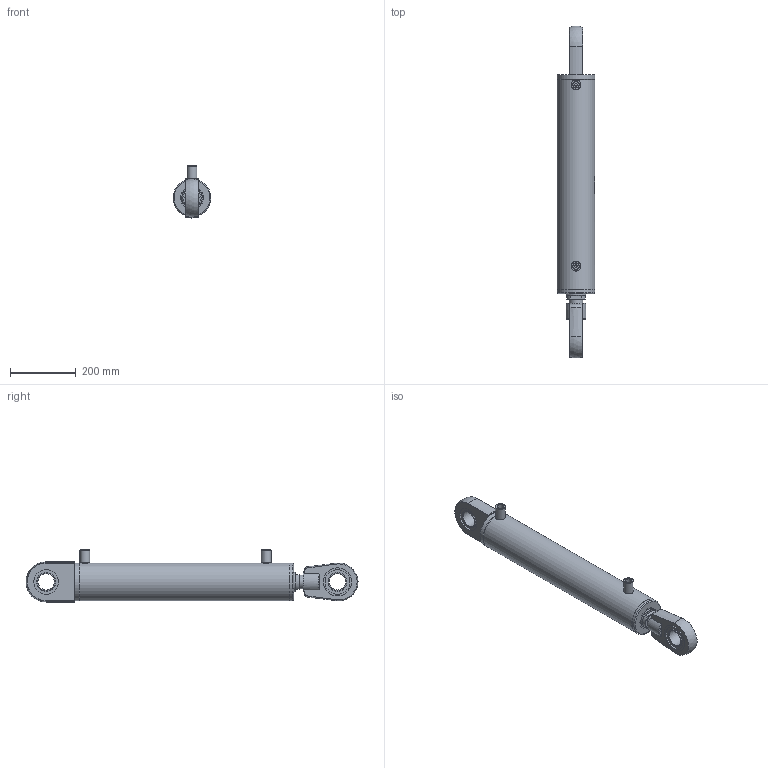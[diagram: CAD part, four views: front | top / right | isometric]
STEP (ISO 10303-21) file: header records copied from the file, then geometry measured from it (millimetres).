
FILE_DESCRIPTION(/* description */ (''),/* implementation_level */ '2;1');
FILE_NAME(/* name */ 'HC_A_100_60_500_AMB_WEB.step',/* time_stamp */ '2023-07-31T14:51:43+03:00',/* author */ (''),/* organization */ (''),/* preprocessor_version */ 'ST-DEVELOPER v20',/* originating_system */ 'Autodesk Translation Framework v12.9.0.99',/* authorisation */ '');
FILE_SCHEMA (('AUTOMOTIVE_DESIGN { 1 0 10303 214 3 1 1 }'));
Length unit declared in the file: millimetre
Products named in the file (20): TRACE_PARTS_MONTAJ; TAK_100_115; TAK_100_115_1; Ø100 x Ø115 _H_BORU; 100X115_H_BORU; Ø60_K_MİL; 60_K_MİL; TDK_100_060; TDK_80_45; K33-060_3; K3-060_3; K06-60X70X5_5X7 (K06_060_5); KO-90X5; Bileşen1; RMK_50; RMV_50; dgihl_50_do; Manşon_1_2; Manşon_1_2_1; MANŞON_1/2
Assembly tree (20 placements, depth 4):
  TRACE_PARTS_MONTAJ
    TAK_100_115
      TAK_100_115_1
    Ø100 x Ø115 _H_BORU
      100X115_H_BORU
    Ø60_K_MİL
      60_K_MİL
    TDK_100_060
      TDK_80_45
      K33-060_3
        K3-060_3
      K06-60X70X5_5X7 (K06_060_5)
      KO-90X5
        Bileşen1
    RMK_50
    RMV_50
      dgihl_50_do
    Manşon_1_2
      MANŞON_1/2
    Manşon_1_2_1
      MANŞON_1/2
Bounding box: 115 x 1013.16 x 159 mm (x, y, z)
Volume: 3943583.5 mm3; surface area: 728861.3 mm2
Topology: 11 solids, 11 shells, 768 faces, 2004 edges, 1325 vertices
Faces by surface type: bspline 380, plane 242, cylinder 72, cone 48, torus 18, sphere 8
Full cylindrical faces by diameter (mm): 8 x2, 19 x2, 30 x3, 41.822 x1, 43.376 x1, 44.85 x1, 50 x3, 60 x3, 60.948 x2, 61 x1, 61.6 x1, 62.6 x1, 69.408 x1, 69.425 x1, 70 x1, 70.6 x1, 75 x4, 86 x2, 90 x1, 98 x1, 99 x2, 100 x2, 101 x1, 103.022 x1, 104.822 x1, 115 x3
Entity records: 36274 total; most frequent: CARTESIAN_POINT 19490, ORIENTED_EDGE 3964, DIRECTION 2307, EDGE_CURVE 1982, VERTEX_POINT 1315, EDGE_LOOP 853, LINE 853, VECTOR 853
